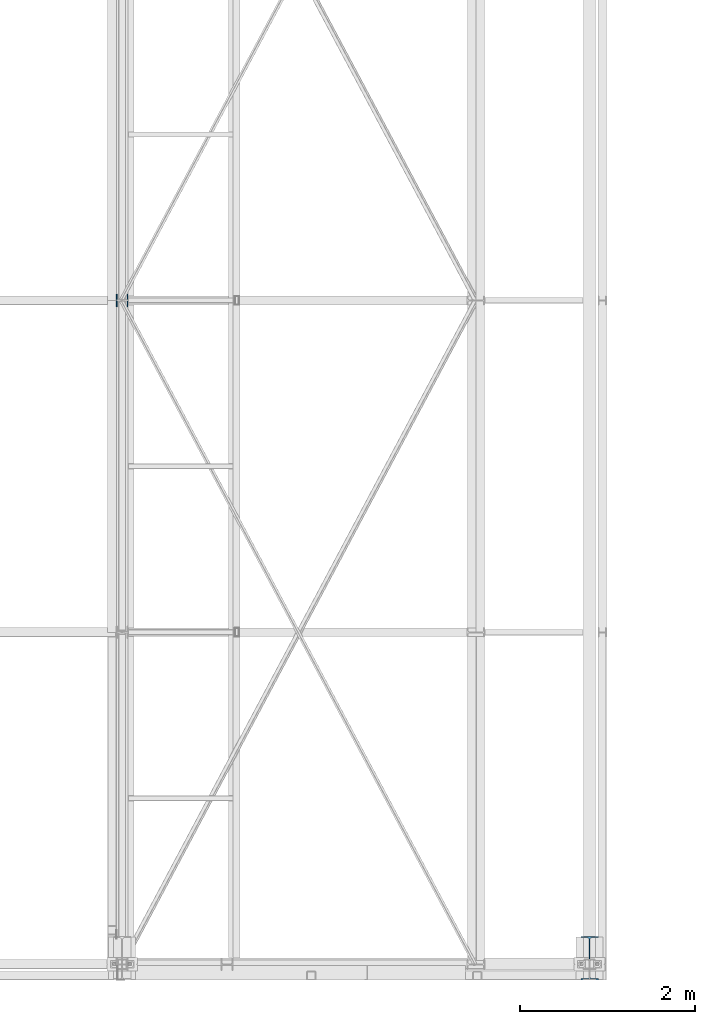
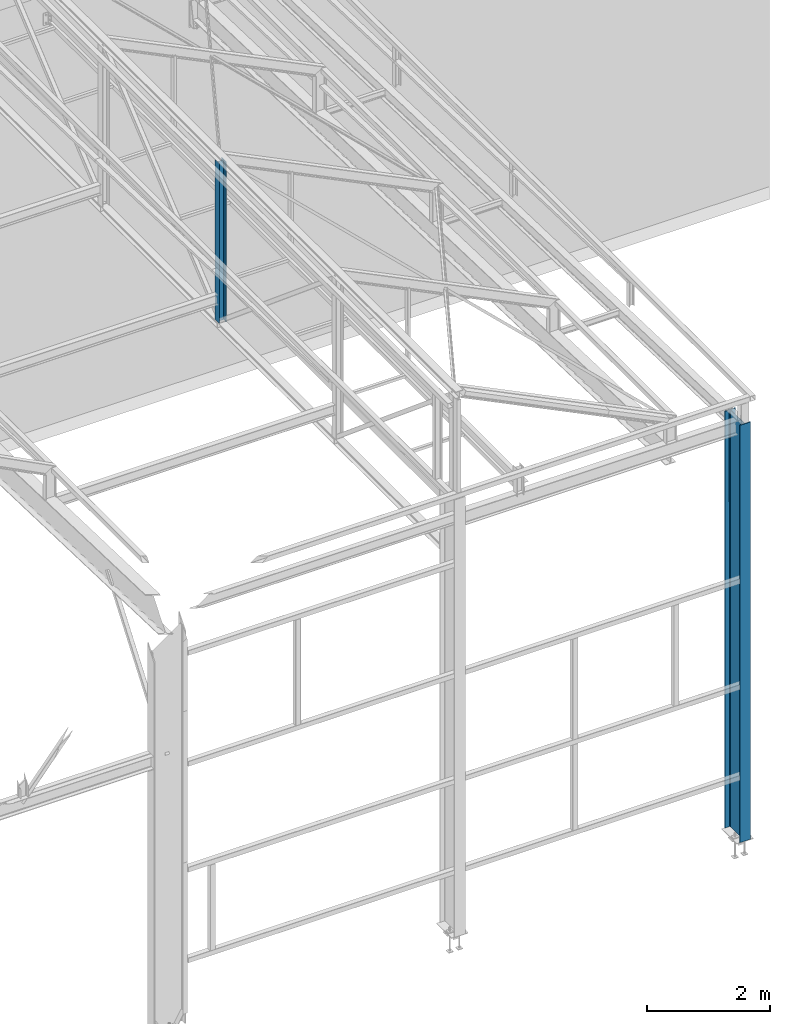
# One storey, part 13 of 123: 2 columns, 2 elements without a shape of their own.
"""IFC2X3 building model written with IfcOpenShell, lengths in millimetres."""

import ifcopenshell
import ifcopenshell.guid

model = None  # the IFC model being written
_history = None  # IfcOwnerHistory: only IFC2X3 demands one
_inside = {}  # id of a spatial element -> (the spatial element, [elements in it])
_under = {}  # id of a project, library or spatial element -> (it, [spatial elements below it])
_declared = {}  # id of a project -> (the project, [libraries it declares])
_typed = {}  # id of a type object -> (the type object, [elements of that type])
_made_of = {}  # id of a material, layer set ... -> (it, [elements and type objects made of it])


def new_model(schema):
    """Start an empty IFC model of exactly this schema.

    Asked for "IFC4X3", IfcOpenShell would pick the latest addendum, in which some entities
    have other attributes; the version numbers below select the first issue.
    IFC2X3 requires an IfcOwnerHistory on every rooted entity: one is made here for all.
    """
    global model, _history
    if schema == "IFC4X3":
        model = ifcopenshell.file(schema_version=(4, 3, 0, 0))
    else:
        model = ifcopenshell.file(schema=schema)
    _inside.clear()
    _under.clear()
    _declared.clear()
    _typed.clear()
    _made_of.clear()
    _history = None
    if model.schema == "IFC2X3":
        org = make("IfcOrganization", Name="unknown")
        user = make(
            "IfcPersonAndOrganization",
            ThePerson=make("IfcPerson", FamilyName="unknown"),
            TheOrganization=org,
        )
        app = make(
            "IfcApplication",
            ApplicationDeveloper=org,
            Version="unknown",
            ApplicationFullName="unknown",
            ApplicationIdentifier="unknown",
        )
        _history = make(
            "IfcOwnerHistory",
            OwningUser=user,
            OwningApplication=app,
            ChangeAction="ADDED",
            CreationDate=0,
        )
    return model


def make(cls, **values):
    """One entity of the class cls with the attributes given. An attribute that is None is left unset."""
    return model.create_entity(
        cls, **{name: value for name, value in values.items() if value is not None}
    )


def rooted(cls, **values):
    """An entity with a GlobalId (a new one), such as an element, a storey or a relation."""
    return make(cls, GlobalId=ifcopenshell.guid.new(), OwnerHistory=_history, **values)


def si_unit(unit_type, name, prefix=None):
    """IfcSIUnit, for example si_unit("LENGTHUNIT", "METRE", prefix="MILLI")."""
    return make("IfcSIUnit", UnitType=unit_type, Prefix=prefix, Name=name)


def assignment(units):
    """IfcUnitAssignment: the units of a project."""
    return None if units is None else make("IfcUnitAssignment", Units=units)


def point(xyz):
    """IfcCartesianPoint."""
    return None if xyz is None else make("IfcCartesianPoint", Coordinates=xyz)


def direction(xyz):
    """IfcDirection."""
    return None if xyz is None else make("IfcDirection", DirectionRatios=xyz)


def frame(location, z_axis=None, x_axis=None):
    """IfcAxis2Placement3D, a coordinate frame: its origin and axes. An axis left out is left unset."""
    return make(
        "IfcAxis2Placement3D",
        Location=point(location),
        Axis=direction(z_axis),
        RefDirection=direction(x_axis),
    )


def frame_2d(location, x_axis=None):
    """IfcAxis2Placement2D, a coordinate frame in the plane: its origin and x axis."""
    return make(
        "IfcAxis2Placement2D", Location=point(location), RefDirection=direction(x_axis)
    )


def origin_with_axes():
    """The frame at (0, 0, 0) with the z axis (0, 0, 1) and the x axis (1, 0, 0) written out."""
    return frame((0.0, 0.0, 0.0), z_axis=(0.0, 0.0, 1.0), x_axis=(1.0, 0.0, 0.0))


def origin_2d_with_axis():
    """The frame at (0, 0) in the plane with the x axis (1, 0) written out."""
    return frame_2d((0.0, 0.0), x_axis=(1.0, 0.0))


def place(relative_to, where):
    """IfcLocalPlacement: puts the frame where relative to a parent placement (None: the world)."""
    return make(
        "IfcLocalPlacement", PlacementRelTo=relative_to, RelativePlacement=where
    )


def context(
    kind, dimensions, precision=None, world=None, true_north=None, identifier=None
):
    """IfcGeometricRepresentationContext, for example the 3D "Model" context."""
    return make(
        "IfcGeometricRepresentationContext",
        ContextIdentifier=identifier,
        ContextType=kind,
        CoordinateSpaceDimension=dimensions,
        Precision=precision,
        WorldCoordinateSystem=world,
        TrueNorth=true_north,
    )


def subcontext(parent, identifier, kind, view, scale=None):
    """IfcGeometricRepresentationSubContext, for example "Body" below "Model"."""
    return make(
        "IfcGeometricRepresentationSubContext",
        ContextIdentifier=identifier,
        ContextType=kind,
        ParentContext=parent,
        TargetScale=scale,
        TargetView=view,
    )


def project(units=None, contexts=None):
    """IfcProject with its units and contexts."""
    return rooted(
        "IfcProject",
        Name="project",
        RepresentationContexts=contexts,
        UnitsInContext=assignment(units),
    )


def spatial(cls, under=None, at=None, **own):
    """A site, building, storey or space (cls), placed at a placement, below another one or the project."""
    s = rooted(cls, ObjectPlacement=at, **own)
    if under is not None:
        _under.setdefault(under.id(), (under, []))[1].append(s)
    return s


def profile(cls, at=None, kind="AREA", **sizes):
    """A parametric profile (cls). Its sizes go by their IFC names, for example OverallWidth=200.0."""
    return make(cls, ProfileType=kind, Position=at, **sizes)


def i_section(**sizes):
    """IfcIShapeProfileDef."""
    return profile("IfcIShapeProfileDef", **sizes)


def extrude(swept, where, along, depth):
    """IfcExtrudedAreaSolid: the profile swept, set in the frame where, extruded along a direction by depth."""
    return make(
        "IfcExtrudedAreaSolid",
        SweptArea=swept,
        Position=where,
        ExtrudedDirection=direction(along),
        Depth=depth,
    )


def clip(a, b, op="DIFFERENCE"):
    """IfcBooleanClippingResult: the solid a cut by the half space b."""
    return make(
        "IfcBooleanClippingResult", Operator=op, FirstOperand=a, SecondOperand=b
    )


def halfspace(plane, agree):
    """IfcHalfSpaceSolid: all space on one side of the plane z = 0 of the frame plane."""
    return make(
        "IfcHalfSpaceSolid",
        BaseSurface=make("IfcPlane", Position=plane),
        AgreementFlag=agree,
    )


def shape(context_of_items, identifier, shape_type, items):
    """IfcShapeRepresentation: the items that make up one representation, for example the "Body"."""
    return make(
        "IfcShapeRepresentation",
        ContextOfItems=context_of_items,
        RepresentationIdentifier=identifier,
        RepresentationType=shape_type,
        Items=items,
    )


def material(Name=None, Category=None):
    """IfcMaterial."""
    return make("IfcMaterial", Name=Name, Category=Category)


def made_of(thing, what):
    """Note that an element or type object is made of a material, layer set ...; save() writes the relation."""
    if what is not None:
        _made_of.setdefault(what.id(), (what, []))[1].append(thing)
    return thing


def type_object(cls, material=None, **own):
    """A type object (cls), such as IfcWallType, which elements share."""
    return made_of(rooted(cls, **own), material)


def element(
    cls,
    number,
    at=None,
    inside=None,
    cuts=None,
    type_object=None,
    material=None,
    context=None,
    identifier="Body",
    shape_type=None,
    held_by="IfcProductDefinitionShape",
    body=None,
    shapes=None,
    **own,
):
    """One element of the class cls, such as IfcWall. Its Tag is "e" and its number.

    at: its placement. inside: the storey or other place that contains it. cuts: it is an
    opening in that element (IfcRelVoidsElement). A single representation is given by context,
    identifier, shape_type and body (its items); several are given by shapes. held_by: the class
    of the entity that holds the representations. save() writes the other relations.
    """
    e = rooted(cls, Tag="e%d" % number, ObjectPlacement=at, **own)
    if body is not None:
        shapes = [shape(context, identifier, shape_type, body)]
    if shapes is not None:
        e.Representation = make(held_by, Representations=shapes)
    if inside is not None:
        _inside.setdefault(inside.id(), (inside, []))[1].append(e)
    if cuts is not None:
        rooted(
            "IfcRelVoidsElement", RelatingBuildingElement=cuts, RelatedOpeningElement=e
        )
    if type_object is not None:
        _typed.setdefault(type_object.id(), (type_object, []))[1].append(e)
    return made_of(e, material)


def aggregate(whole, parts):
    """IfcRelAggregates: a whole, such as a stair, and the parts it consists of."""
    return rooted("IfcRelAggregates", RelatingObject=whole, RelatedObjects=parts)


def save(model, path):
    """Write the relations noted so far, then the file.

    IfcRelAggregates (storeys below a building ...), IfcRelContainedInSpatialStructure (elements
    in a storey), IfcRelDefinesByType, IfcRelAssociatesMaterial and IfcRelDeclares: one each for
    every whole, place, type object, material and project.
    """
    for whole, parts in _under.values():
        aggregate(whole, parts)
    for where, things in _inside.values():
        rooted(
            "IfcRelContainedInSpatialStructure",
            RelatedElements=things,
            RelatingStructure=where,
        )
    for kind, things in _typed.values():
        rooted("IfcRelDefinesByType", RelatedObjects=things, RelatingType=kind)
    for what, things in _made_of.values():
        rooted("IfcRelAssociatesMaterial", RelatedObjects=things, RelatingMaterial=what)
    for by, libraries in _declared.values():
        rooted("IfcRelDeclares", RelatingContext=by, RelatedDefinitions=libraries)
    model.write(path)


model = new_model("IFC2X3")

# Units and contexts
model_context = context("Model", 3, precision=1e-05, world=origin_with_axes())
body_context = subcontext(model_context, "Body", "Model", "MODEL_VIEW")
ifc_project = project(units=[si_unit("LENGTHUNIT", "METRE", prefix="MILLI"), si_unit("AREAUNIT", "SQUARE_METRE"), si_unit("VOLUMEUNIT", "CUBIC_METRE"), si_unit("MASSUNIT", "GRAM", prefix="KILO"), si_unit("TIMEUNIT", "SECOND"), si_unit("PLANEANGLEUNIT", "RADIAN"), si_unit("SOLIDANGLEUNIT", "STERADIAN"), si_unit("THERMODYNAMICTEMPERATUREUNIT", "DEGREE_CELSIUS"), si_unit("LUMINOUSINTENSITYUNIT", "LUMEN")], contexts=[model_context])

# Site, building, storey
site_placement = place(None, origin_with_axes())
site = spatial("IfcSite", under=ifc_project, at=site_placement, Name="Undefined", CompositionType="ELEMENT")
building_placement = place(site_placement, origin_with_axes())
building = spatial("IfcBuilding", under=site, at=building_placement, Name="Undefined", CompositionType="ELEMENT")
storey_placement = place(building_placement, origin_with_axes())
storey = spatial("IfcBuildingStorey", under=building, at=storey_placement, Name="Undefined", CompositionType="ELEMENT", Elevation=0.0)

# Assembly, column
assembly_1_placement = place(storey_placement, origin_with_axes())
assembly_1 = element("IfcElementAssembly", 1, at=assembly_1_placement, inside=storey, Name="Steel Assembly", AssemblyPlace="NOTDEFINED", PredefinedType="RIGID_FRAME")
ifc_material = material(Name="STEEL/S275-E28")
column_type_1 = type_object("IfcColumnType", Name="IPE500", PredefinedType="NOTDEFINED")
column_1_placement = place(assembly_1_placement, frame((39630.0, 70.0, -235.0), z_axis=(0.0, 0.0, 1.0), x_axis=(0.0, 1.0, 0.0)))
column_1 = element("IfcColumn", 2, at=column_1_placement, type_object=column_type_1, material=ifc_material, Name="POTEAU", ObjectType="IPE500", context=body_context, shape_type="Clipping", body=[
    clip(extrude(i_section(OverallWidth=200.0, OverallDepth=500.0, WebThickness=10.19999981, FlangeThickness=16.0, FilletRadius=21.0, at=origin_2d_with_axis()), frame((0.0, 0.0, 8285.0), z_axis=(0.0, 0.0, -1.0), x_axis=(0.0, 1.0, 0.0)), (0.0, 0.0, 1.0), 8285.0), halfspace(frame((-250.0, 100.0, 8280.65179104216), z_axis=(0.0314107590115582, 0.0, 0.999506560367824), x_axis=(0.999506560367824, 0.0, -0.0314107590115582)), False)),
])
aggregate(assembly_1, [column_1])

assembly_2_placement = place(storey_placement, origin_with_axes())
assembly_2 = element("IfcElementAssembly", 3, at=assembly_2_placement, inside=storey, Name="Steel Assembly", AssemblyPlace="NOTDEFINED", PredefinedType="RIGID_FRAME")
column_type_2 = type_object("IfcColumnType", Name="HEA140", PredefinedType="NOTDEFINED")
column_2_placement = place(assembly_2_placement, frame((34280.0, 7600.0, 7250.0), z_axis=(0.0, 0.0, 1.0), x_axis=(-1.0, 0.0, 0.0)))
column_2 = element("IfcColumn", 4, at=column_2_placement, type_object=column_type_2, material=ifc_material, Name="MONTANT", ObjectType="HEA140", context=body_context, shape_type="SweptSolid", body=[
    extrude(i_section(OverallWidth=140.0, OverallDepth=133.0, WebThickness=5.5, FlangeThickness=8.5, FilletRadius=12.0, at=origin_2d_with_axis()), frame((0.0, 0.0, 3173.0), z_axis=(0.0, 0.0, -1.0), x_axis=(0.0, 1.0, 0.0)), (0.0, 0.0, 1.0), 3173.0),
])
aggregate(assembly_2, [column_2])

save(model, "model.ifc")
